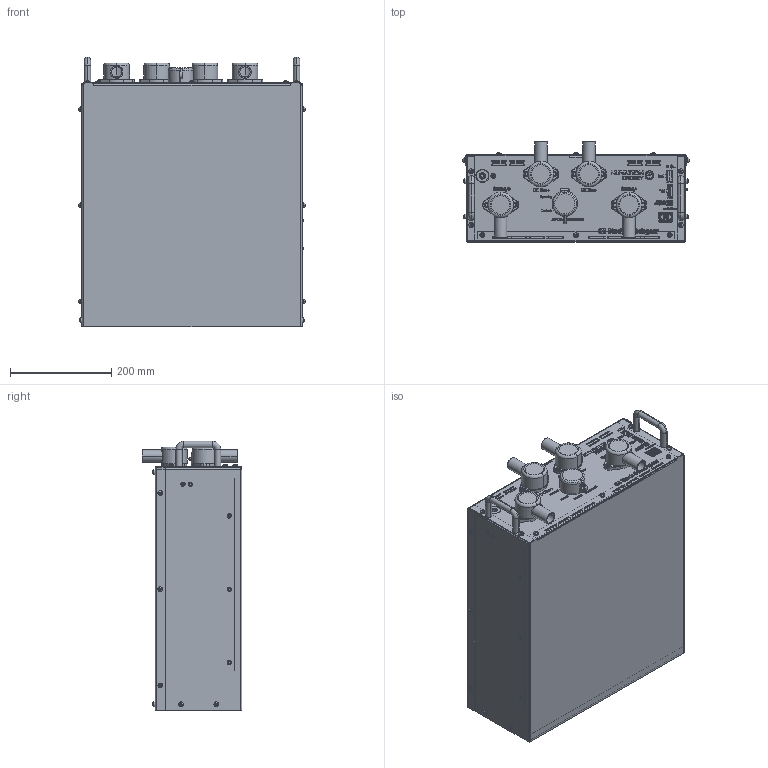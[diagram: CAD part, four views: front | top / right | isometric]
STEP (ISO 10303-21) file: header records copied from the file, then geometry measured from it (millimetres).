
FILE_DESCRIPTION (( 'STEP AP214' ), '1' );
FILE_NAME ('NUVG5-SSG.STEP', '2025-06-10T19:21:04', ( '' ), ( '' ), 'SwSTEP 2.0', 'SolidWorks 2022', '' );
FILE_SCHEMA (( 'AUTOMOTIVE_DESIGN' ));
Length unit declared in the file: millimetre
Products named in the file (1): NUVG5-SSG
Bounding box: 446.99 x 197.09 x 532.39 mm (x, y, z)
Volume: 1488204.3 mm3; surface area: 1780165.8 mm2
Topology: 5 solids, 9 shells, 7212 faces, 19627 edges, 12778 vertices
Faces by surface type: plane 4191, bspline 1837, cylinder 825, cone 229, torus 80, sphere 50
Entity records: 344714 total; most frequent: CARTESIAN_POINT 125085, ORIENTED_EDGE 39210, DIRECTION 28001, EDGE_CURVE 19605, LINE 13375, VECTOR 13375, VERTEX_POINT 12776, EDGE_LOOP 8011
